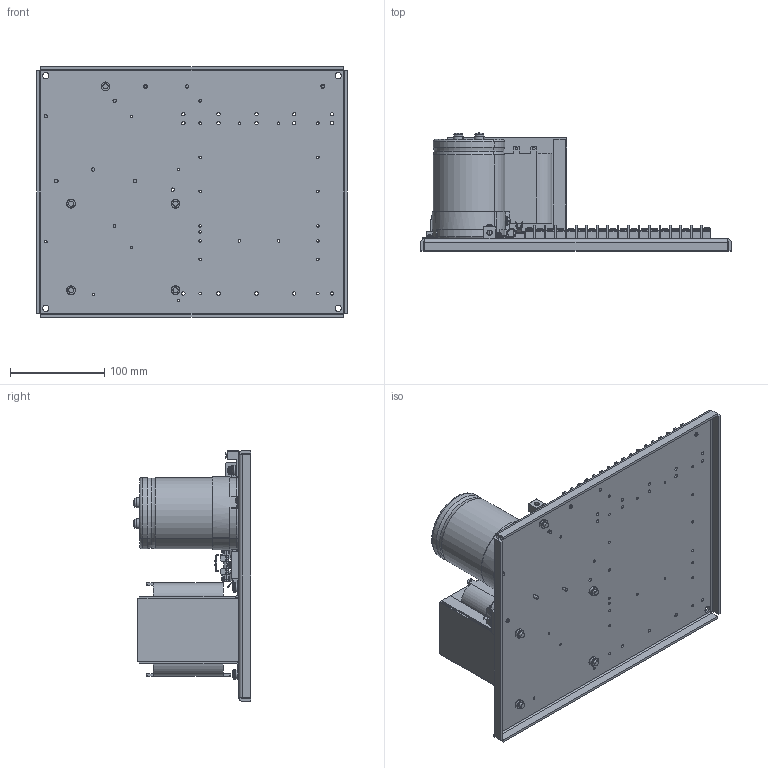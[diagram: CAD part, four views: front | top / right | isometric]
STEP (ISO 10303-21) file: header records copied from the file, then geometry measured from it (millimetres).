
FILE_DESCRIPTION((''),'2;1');
FILE_NAME('AMC_CAD_PS_PS16_ASM','2019-06-06T',('SYSTEM'),(''),'PRO/ENGINEER BY PARAMETRIC TECHNOLOGY CORPORATION, 2016360','PRO/ENGINEER BY PARAMETRIC TECHNOLOGY CORPORATION, 2016360','');
FILE_SCHEMA(('AUTOMOTIVE_DESIGN { 1 0 10303 214 1 1 1 1 }'));
Length unit declared in the file: inch
Products named in the file (53): S5-4-SOLID1; S9-5-SOLID2; C1-2-SOLID1; S2-3-SOLID1; FH-1-SOLID2; S15-2-SOLID2; S7-4-SOLID1; FH-1-SOLID1; FH-1-SOLID5; S15-2-SOLID1; S7-4-SOLID2; BSPLT-2-SOLID3; S1-2-SOLID2; S11-4-SOLID2; BSPLT-2-SOLID2; S8-6-SOLID2; S8-6-SOLID1; FH-1-SOLID7; BRKT1-2-SOLID1; S10-3-SOLID1; S1-2-SOLID1; S4-3-SOLID1; FUSE-2-SOLID1; S4-3-SOLID2; S9-5-SOLID1; S11-4-SOLID1; S12-2-SOLID1; BSPLT-2-SOLID4; DB1-2-SOLID1; R1-2-SOLID1; S6-5-SOLID2; FH-1-SOLID3; S5-4-SOLID2; FH-1-SOLID4; S14-2-SOLID1; BSPLT-2-SOLID5; BSPLT-2-SOLID6; T1-2-SOLID1; P2-2-SOLID1; S13-3-SOLID1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
Assembly tree (52 placements, depth 3):
  AMC_CAD_PS_PS16_ASM
    ASM0001_ASM
      S5-4-SOLID1
      S9-5-SOLID2
      C1-2-SOLID1
      S2-3-SOLID1
      FH-1-SOLID2
      S15-2-SOLID2
      S7-4-SOLID1
      FH-1-SOLID1
      FH-1-SOLID5
      S15-2-SOLID1
      S7-4-SOLID2
      BSPLT-2-SOLID3
      S1-2-SOLID2
      S11-4-SOLID2
      BSPLT-2-SOLID2
      S8-6-SOLID2
      S8-6-SOLID1
      FH-1-SOLID7
      BRKT1-2-SOLID1
      S10-3-SOLID1
      S1-2-SOLID1
      S4-3-SOLID1
      FUSE-2-SOLID1
      S4-3-SOLID2
      S9-5-SOLID1
      S11-4-SOLID1
      S12-2-SOLID1
      BSPLT-2-SOLID4
      DB1-2-SOLID1
      R1-2-SOLID1
      S6-5-SOLID2
      FH-1-SOLID3
      S5-4-SOLID2
      FH-1-SOLID4
      S14-2-SOLID1
      BSPLT-2-SOLID5
      BSPLT-2-SOLID6
      T1-2-SOLID1
      P2-2-SOLID1
      S13-3-SOLID1
      CLAMP-2-SOLID1
      BSPLT-2-SOLID1
      S14-2-SOLID2
      P1-2-SOLID1
      S6-5-SOLID1
      S2-3-SOLID2
      N1-2-SOLID1
      S3-2-SOLID1
      S3-2-SOLID2
      FH-1-SOLID6
      S10-3-SOLID2
Bounding box: 330.2 x 125.15 x 266.7 mm (x, y, z)
Volume: 1942734.1 mm3; surface area: 360880.5 mm2
Topology: 51 solids, 51 shells, 2597 faces, 6922 edges, 4530 vertices
Faces by surface type: plane 1126, cylinder 944, cone 214, torus 151, extrusion 95, sphere 50, bspline 17
Entity records: 137016 total; most frequent: CARTESIAN_POINT 39296, ORIENTED_EDGE 13804, DIRECTION 13630, PRESENTATION_STYLE_ASSIGNMENT 8069, STYLED_ITEM 6953, CURVE_STYLE 6902, EDGE_CURVE 6902, AXIS2_PLACEMENT_3D 4999
